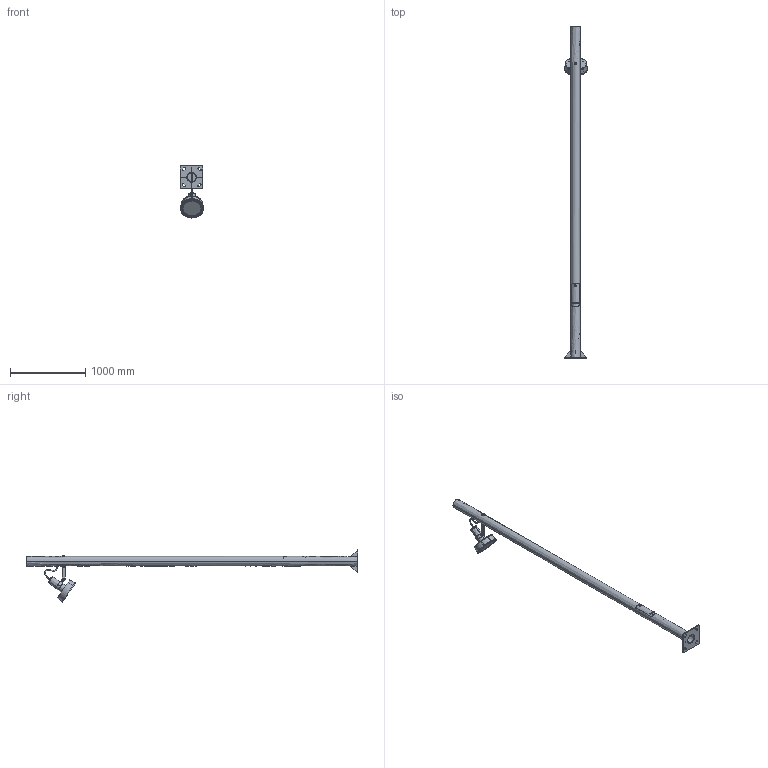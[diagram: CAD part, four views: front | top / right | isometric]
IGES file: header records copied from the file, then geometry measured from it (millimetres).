
Start section: SolidWorks IGES file using analytic representation for surfaces
Global section: file name: C:\Users\jordi.munoz\Desktop\ARNE\IGES WEB\Columna Arne 4,4m 1sección 1altura.IGS; native system: SolidWorks 2013; preprocessor: SolidWorks 2013; author: jordi.munoz; date: 150325.104625; units: millimetre
Bounding box: 310 x 4400 x 690.94 mm (x, y, z)
Volume: 7533039.4 mm3; surface area: 4421459.4 mm2
Topology: 51 solids, 51 shells, 3439 faces, 8416 edges, 5017 vertices
Faces by surface type: revolution 1342, bspline 1167, plane 930
